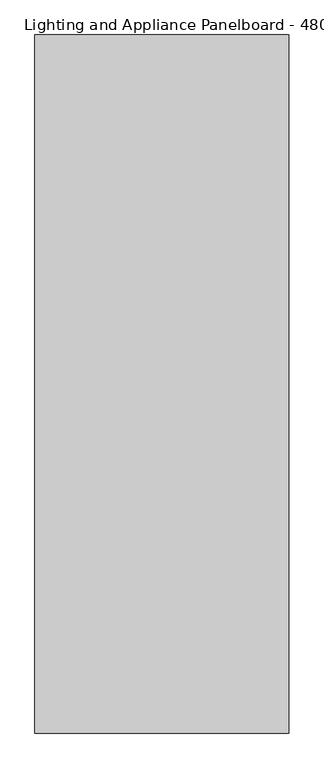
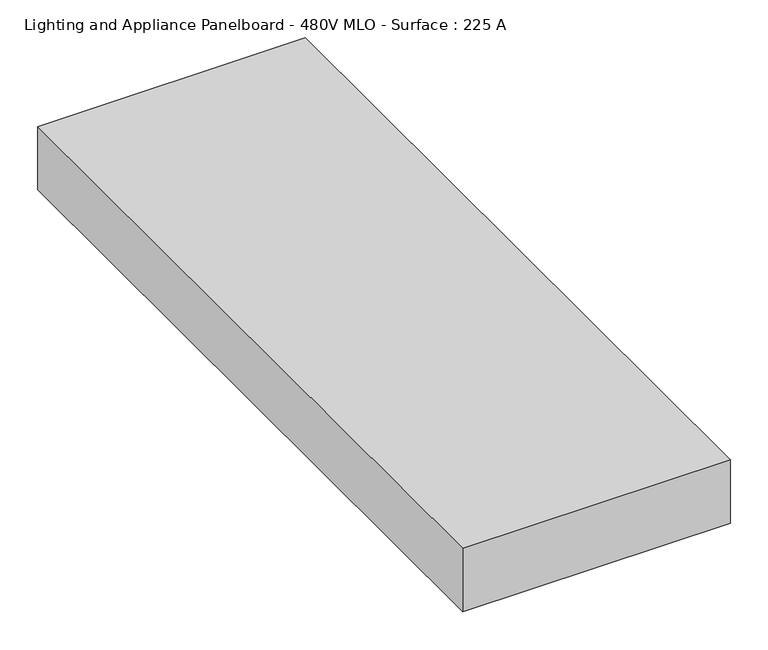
"""IFC4 building model written with IfcOpenShell, lengths in millimetres: proxy geometry, Lighting and Appliance Panelboard - 480V MLO - Surface : 225 A."""

from ifc_helpers import new_model, si_unit, origin, origin_with_axes, place, context, project, spatial, polyline, outline, extrude, source, transform, mapped, element, save


def lighting_and_appliance_panelboard_480v_mlo_surface_225_a_cb251ed6(model_context):
    return source(origin(), model_context, "Body", "SweptSolid", [
        extrude(outline(polyline([(203.2, 932.6725953), (203.2, -184.9274047), (-203.2, -184.9274047), (-203.2, 932.6725953), (203.2, 932.6725953)])), origin_with_axes(), (0.0, 0.0, 1.0), 101.6),
    ])


if __name__ == "__main__":
    model = new_model("IFC4")
    model_context = context("Model", 3, world=origin())
    ifc_project = project(units=[si_unit("LENGTHUNIT", "METRE", prefix="MILLI")], contexts=[model_context])
    site = spatial("IfcSite", under=ifc_project)
    building = spatial("IfcBuilding", under=site)
    placement = place(None, origin())
    lighting_and_appliance_panelboard_480v_mlo_surface_225_a_shape = lighting_and_appliance_panelboard_480v_mlo_surface_225_a_cb251ed6(model_context)
    element("IfcBuildingElementProxy", 1, Name="Lighting and Appliance Panelboard - 480V MLO - Surface : 225 A", ObjectType="Lighting and Appliance Panelboard - 480V MLO - Surface : 225 A", at=placement, inside=building, context=model_context, shape_type="MappedRepresentation", body=[
        mapped(lighting_and_appliance_panelboard_480v_mlo_surface_225_a_shape, transform((0.0, 0.0, 0.0), x_axis=(1.0, 0.0, 0.0), y_axis=(0.0, 1.0, 0.0), z_axis=(0.0, 0.0, 1.0))),
    ])
    save(model, "model.ifc")
